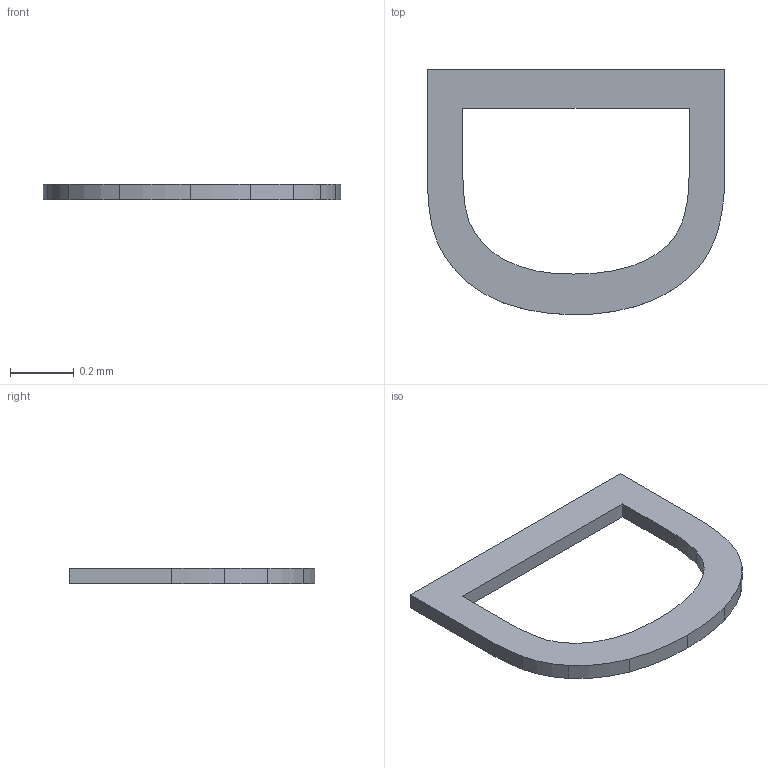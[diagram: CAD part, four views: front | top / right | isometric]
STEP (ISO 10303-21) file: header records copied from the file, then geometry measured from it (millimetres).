
FILE_DESCRIPTION(/* description */ ('STEP AP242 Edition 2','CAx-IF Rec.Pracs.---Representation and Presentation of Product Manufacturing Information (PMI)---4.0---2014-10-13','CAx-IF Rec.Pracs.---3D Tessellated Geometry---0.4---2014-09-14','2;1','CAx-IF Rec.Pracs.---User Defined Attributes---1.5---2016-08-15'),/* implementation_level */ '2;1');
FILE_NAME(/* name */ 'Drone Layout - Surface 316',/* time_stamp */ '2026-10-04T22:22:55Z',/* author */ (''),/* organization */ (''),/* preprocessor_version */ 'ST-DEVELOPER v20',/* originating_system */ 'ONSHAPE BY PTC INC, 1.221',/* authorisation */ ' ');
FILE_SCHEMA (('AP242_MANAGED_MODEL_BASED_3D_ENGINEERING_MIM_LF { 1 0 10303 442 3 1 4 }'));
Length unit declared in the file: metre
Products named in the file (1): Text_SDA
Bounding box: 0.93 x 0.77 x 0.05 mm (x, y, z)
Volume: 0 mm3; surface area: 0.9 mm2
Topology: 1 solids, 1 shells, 24 faces, 66 edges, 44 vertices
Faces by surface type: cylinder 16, plane 8
Entity records: 816 total; most frequent: CARTESIAN_POINT 186, ORIENTED_EDGE 132, DIRECTION 131, EDGE_CURVE 66, AXIS2_PLACEMENT_3D 57, VERTEX_POINT 44, CIRCLE 32, EDGE_LOOP 26
